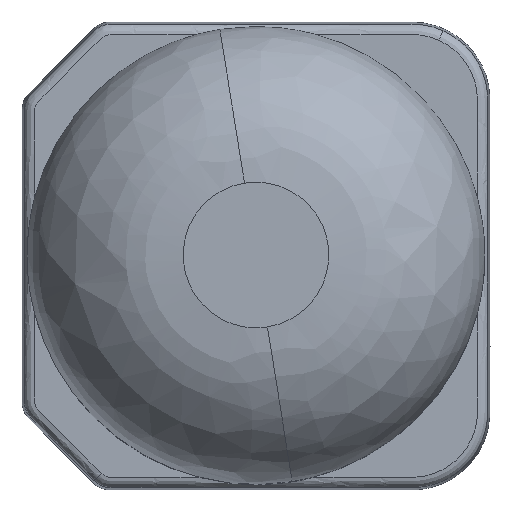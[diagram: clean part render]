
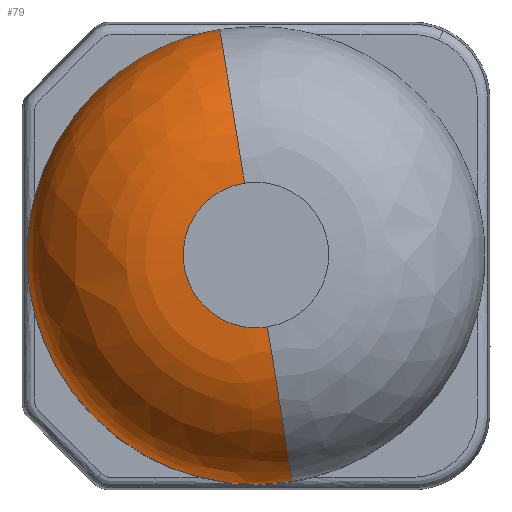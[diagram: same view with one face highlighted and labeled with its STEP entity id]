
A CAD part, top view. The second image highlights one B-rep face of the part: STEP entity #79.
In plain terms, the highlighted free-form (B-spline) face has degree [2, 2] with [3, 5] control points.
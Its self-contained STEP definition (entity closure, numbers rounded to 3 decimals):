
#79=ADVANCED_FACE('',(#149),#1043,.T.);
#149=FACE_OUTER_BOUND('',#219,.T.);
#219=EDGE_LOOP('',(#545,#546,#547,#548,#549,#550,#551,#552,#553));
#545=ORIENTED_EDGE('',*,*,#734,.F.);
#546=ORIENTED_EDGE('',*,*,#733,.T.);
#547=ORIENTED_EDGE('',*,*,#719,.F.);
#548=ORIENTED_EDGE('',*,*,#732,.F.);
#549=ORIENTED_EDGE('',*,*,#722,.F.);
#550=ORIENTED_EDGE('',*,*,#724,.F.);
#551=ORIENTED_EDGE('',*,*,#728,.F.);
#552=ORIENTED_EDGE('',*,*,#736,.F.);
#553=ORIENTED_EDGE('',*,*,#735,.F.);
#719=EDGE_CURVE('',#1010,#1011,#794,.T.);
#722=EDGE_CURVE('',#1013,#1012,#796,.T.);
#724=EDGE_CURVE('',#1014,#1013,#798,.T.);
#728=EDGE_CURVE('',#1003,#1014,#802,.T.);
#732=EDGE_CURVE('',#1012,#1010,#806,.T.);
#733=EDGE_CURVE('',#1015,#1011,#807,.T.);
#734=EDGE_CURVE('',#1015,#1016,#808,.T.);
#735=EDGE_CURVE('',#1016,#1017,#809,.T.);
#736=EDGE_CURVE('',#1017,#1003,#810,.T.);
#794=(
BOUNDED_CURVE()
B_SPLINE_CURVE(2,(#2985,#2986,#2987),.UNSPECIFIED.,.F.,.F.)
B_SPLINE_CURVE_WITH_KNOTS((3,3),(-0.426,0.),.UNSPECIFIED.)
CURVE()
GEOMETRIC_REPRESENTATION_ITEM()
RATIONAL_B_SPLINE_CURVE((1.,0.999,1.))
REPRESENTATION_ITEM('')
);
#796=(
BOUNDED_CURVE()
B_SPLINE_CURVE(2,(#2992,#2993,#2994),.UNSPECIFIED.,.F.,.F.)
B_SPLINE_CURVE_WITH_KNOTS((3,3),(-6.215,-5.091),
 .UNSPECIFIED.)
CURVE()
GEOMETRIC_REPRESENTATION_ITEM()
RATIONAL_B_SPLINE_CURVE((1.,0.992,1.))
REPRESENTATION_ITEM('')
);
#798=(
BOUNDED_CURVE()
B_SPLINE_CURVE(2,(#2997,#2998,#2999),.UNSPECIFIED.,.F.,.F.)
B_SPLINE_CURVE_WITH_KNOTS((3,3),(-7.339,-6.215),
 .UNSPECIFIED.)
CURVE()
GEOMETRIC_REPRESENTATION_ITEM()
RATIONAL_B_SPLINE_CURVE((1.,0.992,1.))
REPRESENTATION_ITEM('')
);
#802=(
BOUNDED_CURVE()
B_SPLINE_CURVE(2,(#3009,#3010,#3011),.UNSPECIFIED.,.F.,.F.)
B_SPLINE_CURVE_WITH_KNOTS((3,3),(0.,1.485),
 .UNSPECIFIED.)
CURVE()
GEOMETRIC_REPRESENTATION_ITEM()
RATIONAL_B_SPLINE_CURVE((1.,0.863,1.))
REPRESENTATION_ITEM('')
);
#806=(
BOUNDED_CURVE()
B_SPLINE_CURVE(2,(#3021,#3022,#3023),.UNSPECIFIED.,.F.,.F.)
B_SPLINE_CURVE_WITH_KNOTS((3,3),(0.,1.485),
 .UNSPECIFIED.)
CURVE()
GEOMETRIC_REPRESENTATION_ITEM()
RATIONAL_B_SPLINE_CURVE((1.,0.863,1.))
REPRESENTATION_ITEM('')
);
#807=(
BOUNDED_CURVE()
B_SPLINE_CURVE(2,(#3024,#3025,#3026),.UNSPECIFIED.,.F.,.F.)
B_SPLINE_CURVE_WITH_KNOTS((3,3),(-4.712,0.),.UNSPECIFIED.)
CURVE()
GEOMETRIC_REPRESENTATION_ITEM()
RATIONAL_B_SPLINE_CURVE((1.,0.707,1.))
REPRESENTATION_ITEM('')
);
#808=(
BOUNDED_CURVE()
B_SPLINE_CURVE(2,(#3027,#3028,#3029,#3030,#3031,#3032,#3033,#3034,#3035,
#3036,#3037),.UNSPECIFIED.,.F.,.F.)
B_SPLINE_CURVE_WITH_KNOTS((3,2,2,2,2,3),(0.,0.426,5.091,
7.339,12.003,13.825),.UNSPECIFIED.)
CURVE()
GEOMETRIC_REPRESENTATION_ITEM()
RATIONAL_B_SPLINE_CURVE((1.,0.999,1.,0.863,1.,0.968,
1.,0.863,1.,0.979,1.))
REPRESENTATION_ITEM('')
);
#809=(
BOUNDED_CURVE()
B_SPLINE_CURVE(2,(#3038,#3039,#3040),.UNSPECIFIED.,.F.,.F.)
B_SPLINE_CURVE_WITH_KNOTS((3,3),(-4.712,0.),.UNSPECIFIED.)
CURVE()
GEOMETRIC_REPRESENTATION_ITEM()
RATIONAL_B_SPLINE_CURVE((1.,0.707,1.))
REPRESENTATION_ITEM('')
);
#810=(
BOUNDED_CURVE()
B_SPLINE_CURVE(2,(#3041,#3042,#3043),.UNSPECIFIED.,.F.,.F.)
B_SPLINE_CURVE_WITH_KNOTS((3,3),(-13.825,-12.003),
 .UNSPECIFIED.)
CURVE()
GEOMETRIC_REPRESENTATION_ITEM()
RATIONAL_B_SPLINE_CURVE((1.,0.979,1.))
REPRESENTATION_ITEM('')
);
#1003=VERTEX_POINT('',#2222);
#1010=VERTEX_POINT('',#2229);
#1011=VERTEX_POINT('',#2230);
#1012=VERTEX_POINT('',#2231);
#1013=VERTEX_POINT('',#2232);
#1014=VERTEX_POINT('',#2233);
#1015=VERTEX_POINT('',#2234);
#1016=VERTEX_POINT('',#2235);
#1017=VERTEX_POINT('',#2236);
#1043=(
BOUNDED_SURFACE()
B_SPLINE_SURFACE(2,2,((#2098,#2099,#2100,#2101,#2102),(#2103,#2104,#2105,
#2106,#2107),(#2108,#2109,#2110,#2111,#2112)),.UNSPECIFIED.,.F.,.F.,.F.)
B_SPLINE_SURFACE_WITH_KNOTS((3,3),(3,2,3),(-4.712,0.),(0.,6.912,
13.825),.UNSPECIFIED.)
GEOMETRIC_REPRESENTATION_ITEM()
RATIONAL_B_SPLINE_SURFACE(((9.797,6.928,9.797,
6.928,9.797),(6.928,4.899,6.928,
4.899,6.928),(9.797,6.928,9.797,
6.928,9.797)))
REPRESENTATION_ITEM('')
SURFACE()
);
#2098=CARTESIAN_POINT('',(-0.221,1.383,9.95));
#2099=CARTESIAN_POINT('',(-1.604,1.162,9.95));
#2100=CARTESIAN_POINT('',(-1.383,-0.221,9.95));
#2101=CARTESIAN_POINT('',(-1.162,-1.604,9.95));
#2102=CARTESIAN_POINT('',(0.221,-1.383,9.95));
#2103=CARTESIAN_POINT('',(-0.695,4.345,9.95));
#2104=CARTESIAN_POINT('',(-5.04,3.651,9.95));
#2105=CARTESIAN_POINT('',(-4.345,-0.695,9.95));
#2106=CARTESIAN_POINT('',(-3.651,-5.04,9.95));
#2107=CARTESIAN_POINT('',(0.695,-4.345,9.95));
#2108=CARTESIAN_POINT('',(-0.695,4.345,6.95));
#2109=CARTESIAN_POINT('',(-5.04,3.651,6.95));
#2110=CARTESIAN_POINT('',(-4.345,-0.695,6.95));
#2111=CARTESIAN_POINT('',(-3.651,-5.04,6.95));
#2112=CARTESIAN_POINT('',(0.695,-4.345,6.95));
#2222=CARTESIAN_POINT('',(-1.112,-4.258,6.95));
#2229=CARTESIAN_POINT('',(-1.112,4.258,6.95));
#2230=CARTESIAN_POINT('',(-0.695,4.345,6.95));
#2231=CARTESIAN_POINT('',(-4.258,1.112,6.95));
#2232=CARTESIAN_POINT('',(-4.401,0.,6.95));
#2233=CARTESIAN_POINT('',(-4.258,-1.112,6.95));
#2234=CARTESIAN_POINT('',(-0.221,1.383,9.95));
#2235=CARTESIAN_POINT('',(0.221,-1.383,9.95));
#2236=CARTESIAN_POINT('',(0.695,-4.345,6.95));
#2985=CARTESIAN_POINT('',(-1.112,4.258,6.95));
#2986=CARTESIAN_POINT('',(-0.905,4.312,6.95));
#2987=CARTESIAN_POINT('',(-0.695,4.345,6.95));
#2992=CARTESIAN_POINT('',(-4.401,0.,6.95));
#2993=CARTESIAN_POINT('',(-4.401,0.565,6.95));
#2994=CARTESIAN_POINT('',(-4.258,1.112,6.95));
#2997=CARTESIAN_POINT('',(-4.258,-1.112,6.95));
#2998=CARTESIAN_POINT('',(-4.401,-0.565,6.95));
#2999=CARTESIAN_POINT('',(-4.401,0.,6.95));
#3009=CARTESIAN_POINT('',(-1.112,-4.258,6.95));
#3010=CARTESIAN_POINT('',(-3.606,-3.606,6.95));
#3011=CARTESIAN_POINT('',(-4.258,-1.112,6.95));
#3021=CARTESIAN_POINT('',(-4.258,1.112,6.95));
#3022=CARTESIAN_POINT('',(-3.606,3.606,6.95));
#3023=CARTESIAN_POINT('',(-1.112,4.258,6.95));
#3024=CARTESIAN_POINT('',(-0.221,1.383,9.95));
#3025=CARTESIAN_POINT('',(-0.695,4.345,9.95));
#3026=CARTESIAN_POINT('',(-0.695,4.345,6.95));
#3027=CARTESIAN_POINT('',(-0.221,1.383,9.95));
#3028=CARTESIAN_POINT('',(-0.288,1.372,9.95));
#3029=CARTESIAN_POINT('',(-0.354,1.355,9.95));
#3030=CARTESIAN_POINT('',(-1.148,1.148,9.95));
#3031=CARTESIAN_POINT('',(-1.355,0.354,9.95));
#3032=CARTESIAN_POINT('',(-1.448,0.,9.95));
#3033=CARTESIAN_POINT('',(-1.355,-0.354,9.95));
#3034=CARTESIAN_POINT('',(-1.148,-1.148,9.95));
#3035=CARTESIAN_POINT('',(-0.354,-1.355,9.95));
#3036=CARTESIAN_POINT('',(-0.069,-1.43,9.95));
#3037=CARTESIAN_POINT('',(0.221,-1.383,9.95));
#3038=CARTESIAN_POINT('',(0.221,-1.383,9.95));
#3039=CARTESIAN_POINT('',(0.695,-4.345,9.95));
#3040=CARTESIAN_POINT('',(0.695,-4.345,6.95));
#3041=CARTESIAN_POINT('',(0.695,-4.345,6.95));
#3042=CARTESIAN_POINT('',(-0.218,-4.491,6.95));
#3043=CARTESIAN_POINT('',(-1.112,-4.258,6.95));
